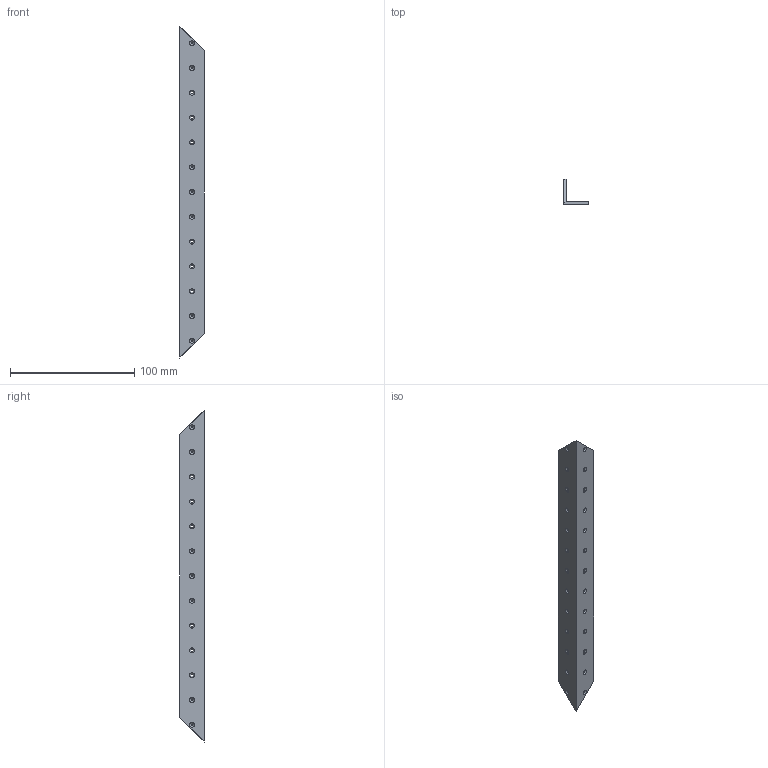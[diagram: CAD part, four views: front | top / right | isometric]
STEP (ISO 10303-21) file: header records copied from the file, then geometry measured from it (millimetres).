
FILE_DESCRIPTION (( 'STEP AP214' ), '1' );
FILE_NAME ('SC11.STEP', '2016-02-26T17:28:04', ( '' ), ( '' ), 'SwSTEP 2.0', 'SolidWorks 2012', '' );
FILE_SCHEMA (( 'AUTOMOTIVE_DESIGN' ));
Length unit declared in the file: millimetre
Products named in the file (1): SC11
Bounding box: 20 x 20 x 267.72 mm (x, y, z)
Volume: 18479.6 mm3; surface area: 19981.8 mm2
Topology: 1 solids, 1 shells, 114 faces, 332 edges, 220 vertices
Faces by surface type: cone 52, cylinder 52, plane 10
Entity records: 4030 total; most frequent: DIRECTION 770, CARTESIAN_POINT 667, ORIENTED_EDGE 664, EDGE_CURVE 332, AXIS2_PLACEMENT_3D 323, VERTEX_POINT 220, CIRCLE 208, EDGE_LOOP 166
